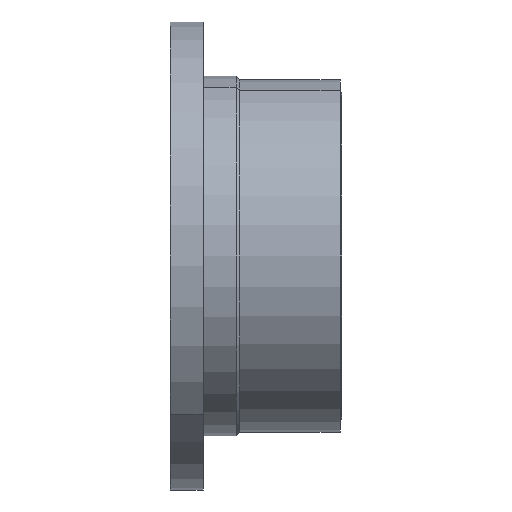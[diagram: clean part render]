
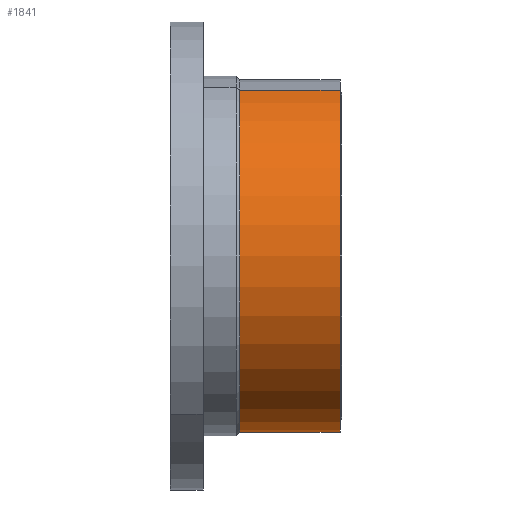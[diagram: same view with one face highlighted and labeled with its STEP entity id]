
A CAD part, left-side view. The second image highlights one B-rep face of the part: STEP entity #1841.
In plain terms, the highlighted cylindrical face has radius 53.5 mm (diameter 107 mm), a partial arc.
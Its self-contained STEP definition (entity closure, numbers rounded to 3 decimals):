
#292 = DIRECTION ( 'NONE',  ( 0., -1., 0. ) ) ;
#360 = CARTESIAN_POINT ( 'NONE',  ( -18.298, 11.277, 50.274 ) ) ;
#484 = EDGE_CURVE ( 'NONE', #3260, #1272, #6285, .T. ) ;
#507 = CARTESIAN_POINT ( 'NONE',  ( 18.298, -42.5, -50.274 ) ) ;
#616 = VERTEX_POINT ( 'NONE', #507 ) ;
#783 = CARTESIAN_POINT ( 'NONE',  ( 18.298, 11.277, -50.274 ) ) ;
#905 = CARTESIAN_POINT ( 'NONE',  ( -18.298, -12., 50.274 ) ) ;
#994 = AXIS2_PLACEMENT_3D ( 'NONE', #2698, #6488, #1824 ) ;
#1272 = VERTEX_POINT ( 'NONE', #6011 ) ;
#1417 = DIRECTION ( 'NONE',  ( 0.342, 0., -0.94 ) ) ;
#1560 = LINE ( 'NONE', #783, #8204 ) ;
#1601 = CARTESIAN_POINT ( 'NONE',  ( -18.298, -42.5, 50.274 ) ) ;
#1820 = ORIENTED_EDGE ( 'NONE', *, *, #4784, .T. ) ;
#1824 = DIRECTION ( 'NONE',  ( 0.342, 0., -0.94 ) ) ;
#1841 = ADVANCED_FACE ( 'NONE', ( #7345 ), #5424, .T. ) ;
#2698 = CARTESIAN_POINT ( 'NONE',  ( 0., -42.5, 0. ) ) ;
#2938 = DIRECTION ( 'NONE',  ( -0.342, 0., 0.94 ) ) ;
#2966 = DIRECTION ( 'NONE',  ( 0., 1., 0. ) ) ;
#3161 = EDGE_CURVE ( 'NONE', #616, #3402, #4341, .T. ) ;
#3260 = VERTEX_POINT ( 'NONE', #905 ) ;
#3402 = VERTEX_POINT ( 'NONE', #1601 ) ;
#3439 = DIRECTION ( 'NONE',  ( 0., 1., 0. ) ) ;
#4252 = CARTESIAN_POINT ( 'NONE',  ( 0., -12., 0. ) ) ;
#4341 = CIRCLE ( 'NONE', #994, 53.5 ) ;
#4527 = ORIENTED_EDGE ( 'NONE', *, *, #3161, .T. ) ;
#4603 = DIRECTION ( 'NONE',  ( 0., 1., 0. ) ) ;
#4784 = EDGE_CURVE ( 'NONE', #3402, #3260, #6231, .T. ) ;
#4896 = AXIS2_PLACEMENT_3D ( 'NONE', #4252, #292, #2938 ) ;
#5424 = CYLINDRICAL_SURFACE ( 'NONE', #8185, 53.5 ) ;
#6011 = CARTESIAN_POINT ( 'NONE',  ( 18.298, -12., -50.274 ) ) ;
#6231 = LINE ( 'NONE', #360, #8134 ) ;
#6285 = CIRCLE ( 'NONE', #4896, 53.5 ) ;
#6488 = DIRECTION ( 'NONE',  ( 0., 1., 0. ) ) ;
#6767 = ORIENTED_EDGE ( 'NONE', *, *, #8309, .F. ) ;
#7171 = ORIENTED_EDGE ( 'NONE', *, *, #484, .T. ) ;
#7345 = FACE_OUTER_BOUND ( 'NONE', #7648, .T. ) ;
#7386 = CARTESIAN_POINT ( 'NONE',  ( 0., 11.277, 0. ) ) ;
#7648 = EDGE_LOOP ( 'NONE', ( #4527, #1820, #7171, #6767 ) ) ;
#8134 = VECTOR ( 'NONE', #2966, 1000. ) ;
#8185 = AXIS2_PLACEMENT_3D ( 'NONE', #7386, #4603, #1417 ) ;
#8204 = VECTOR ( 'NONE', #3439, 1000. ) ;
#8309 = EDGE_CURVE ( 'NONE', #616, #1272, #1560, .T. ) ;
